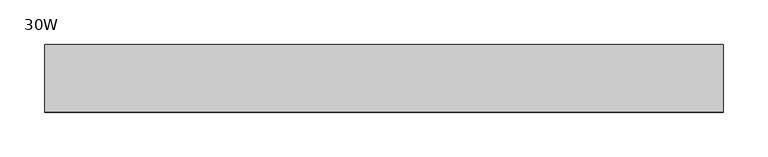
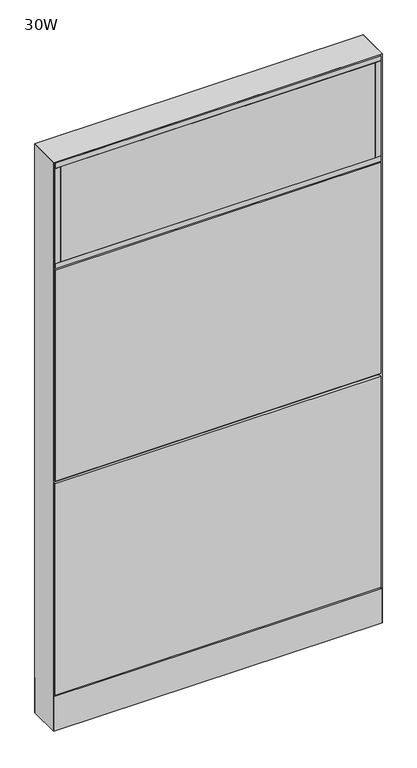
"""IFC4 building model written with IfcOpenShell, lengths in millimetres: furniture geometry, Steelcase - Montage - Frame - 55H - Enhanced Monolithic - Base Cavity : 30W."""

from ifc_helpers import new_model, si_unit, point, frame, frame_2d, origin, origin_with_axes, place, context, project, spatial, polyline, circle_curve, trimmed, segment, composite_curve, outline, extrude, faceted_brep, source, transform, mapped, element, save


def furniture_30w_0af04b80(model_context):
    return source(origin(), model_context, "Body", "SolidModel", [
        extrude(outline(polyline([(15.875, 38.1000015), (746.125, 38.1000015), (746.125, 31.7500017), (15.875, 31.7500017), (15.875, 38.1000015)])), frame((0.0, 0.0, 1149.35), z_axis=(0.0, 0.0, 1.0), x_axis=(1.0, 0.0, 0.0)), (0.0, 0.0, 1.0), 233.3625),
        extrude(outline(polyline([(15.875, -31.7499985), (746.125, -31.7499985), (746.125, -38.1000015), (15.875, -38.1000015), (15.875, -31.7499985)])), frame((0.0, 0.0, 1149.35), z_axis=(0.0, 0.0, 1.0), x_axis=(1.0, 0.0, 0.0)), (0.0, 0.0, 1.0), 233.3625),
        extrude(outline(polyline([(3.175, -38.1000015), (3.175, 38.1000015), (15.875, 38.1000015), (15.875, -38.1000015), (3.175, -38.1000015)])), frame((0.0, 0.0, 1149.35), z_axis=(0.0, 0.0, 1.0), x_axis=(1.0, 0.0, 0.0)), (0.0, 0.0, 1.0), 233.3625),
        extrude(outline(polyline([(746.125, -38.1000015), (746.125, 38.1000015), (758.825, 38.1000015), (758.825, -38.1000015), (746.125, -38.1000015)])), frame((0.0, 0.0, 1149.35), z_axis=(0.0, 0.0, 1.0), x_axis=(1.0, 0.0, 0.0)), (0.0, 0.0, 1.0), 233.3625),
        extrude(outline(polyline([(3.175, -38.1000015), (3.175, 38.1000015), (758.825, 38.1000015), (758.825, -38.1000015), (3.175, -38.1000015)])), frame((0.0, 0.0, 1136.65), z_axis=(0.0, 0.0, 1.0), x_axis=(1.0, 0.0, 0.0)), (0.0, 0.0, 1.0), 12.7),
        extrude(outline(polyline([(3.175, -38.1000015), (3.175, 38.1000015), (758.825, 38.1000015), (758.825, -38.1000015), (3.175, -38.1000015)])), frame((0.0, 0.0, 1382.7125), z_axis=(0.0, 0.0, 1.0), x_axis=(1.0, 0.0, 0.0)), (0.0, 0.0, 1.0), 12.7),
        extrude(outline(polyline([(758.825, 31.7500194), (3.175, 31.7500194), (3.175, 38.1000194), (758.825, 38.1000194), (758.825, 31.7500194)])), frame((0.0, 0.0, 615.95), z_axis=(0.0, 0.0, 1.0), x_axis=(1.0, 0.0, 0.0)), (0.0, 0.0, 1.0), 517.525),
        extrude(outline(polyline([(758.825, 31.7500194), (3.175, 31.7500194), (3.175, 38.1000194), (758.825, 38.1000194), (758.825, 31.7500194)])), frame((0.0, 0.0, 92.075), z_axis=(0.0, 0.0, 1.0), x_axis=(1.0, 0.0, 0.0)), (0.0, 0.0, 1.0), 517.525),
        extrude(outline(polyline([(746.125, -31.7499985), (746.125, -38.1000015), (15.875, -38.1000015), (15.875, -31.7499985), (746.125, -31.7499985)])), frame((0.0, 0.0, 1149.35), z_axis=(0.0, 0.0, 1.0), x_axis=(1.0, 0.0, 0.0)), (0.0, 0.0, 1.0), 233.3625),
        extrude(outline(polyline([(746.125, 38.1000015), (746.125, 31.7500017), (15.875, 31.7500017), (15.875, 38.1000015), (746.125, 38.1000015)])), frame((0.0, 0.0, 1149.35), z_axis=(0.0, 0.0, 1.0), x_axis=(1.0, 0.0, 0.0)), (0.0, 0.0, 1.0), 233.3625),
        extrude(outline(polyline([(758.825, -38.1000015), (746.125, -38.1000015), (746.125, 38.1000015), (758.825, 38.1000015), (758.825, -38.1000015)])), frame((0.0, 0.0, 1149.35), z_axis=(0.0, 0.0, 1.0), x_axis=(1.0, 0.0, 0.0)), (0.0, 0.0, 1.0), 233.3625),
        extrude(outline(polyline([(15.875, -38.1000015), (3.175, -38.1000015), (3.175, 38.1000015), (15.875, 38.1000015), (15.875, -38.1000015)])), frame((0.0, 0.0, 1149.35), z_axis=(0.0, 0.0, 1.0), x_axis=(1.0, 0.0, 0.0)), (0.0, 0.0, 1.0), 233.3625),
        extrude(outline(polyline([(758.825, -38.1000015), (3.175, -38.1000015), (3.175, 38.1000015), (758.825, 38.1000015), (758.825, -38.1000015)])), frame((0.0, 0.0, 1136.65), z_axis=(0.0, 0.0, 1.0), x_axis=(1.0, 0.0, 0.0)), (0.0, 0.0, 1.0), 12.7),
        extrude(outline(polyline([(758.825, -38.1000015), (3.175, -38.1000015), (3.175, 38.1000015), (758.825, 38.1000015), (758.825, -38.1000015)])), frame((0.0, 0.0, 1382.7125), z_axis=(0.0, 0.0, 1.0), x_axis=(1.0, 0.0, 0.0)), (0.0, 0.0, 1.0), 12.7),
        extrude(outline(polyline([(3.175, 31.7500194), (3.175, 38.1000194), (758.825, 38.1000194), (758.825, 31.7500194), (3.175, 31.7500194)])), frame((0.0, 0.0, 615.95), z_axis=(0.0, 0.0, 1.0), x_axis=(1.0, 0.0, 0.0)), (0.0, 0.0, 1.0), 517.525),
        extrude(outline(polyline([(3.175, 31.7500194), (3.175, 38.1000194), (758.825, 38.1000194), (758.825, 31.7500194), (3.175, 31.7500194)])), frame((0.0, 0.0, 92.075), z_axis=(0.0, 0.0, 1.0), x_axis=(1.0, 0.0, 0.0)), (0.0, 0.0, 1.0), 517.525),
        extrude(outline(polyline([(746.125, -38.1000015), (15.875, -38.1000015), (15.875, -31.7500017), (746.125, -31.7500017), (746.125, -38.1000015)])), frame((0.0, 0.0, 1149.35), z_axis=(0.0, 0.0, 1.0), x_axis=(1.0, 0.0, 0.0)), (0.0, 0.0, 1.0), 233.3625),
        extrude(outline(polyline([(746.125, 31.7499985), (15.875, 31.7499985), (15.875, 38.1000015), (746.125, 38.1000015), (746.125, 31.7499985)])), frame((0.0, 0.0, 1149.35), z_axis=(0.0, 0.0, 1.0), x_axis=(1.0, 0.0, 0.0)), (0.0, 0.0, 1.0), 233.3625),
        extrude(outline(polyline([(758.825, 38.1000015), (758.825, -38.1000015), (746.125, -38.1000015), (746.125, 38.1000015), (758.825, 38.1000015)])), frame((0.0, 0.0, 1149.35), z_axis=(0.0, 0.0, 1.0), x_axis=(1.0, 0.0, 0.0)), (0.0, 0.0, 1.0), 233.3625),
        extrude(outline(polyline([(15.875, 38.1000015), (15.875, -38.1000015), (3.175, -38.1000015), (3.175, 38.1000015), (15.875, 38.1000015)])), frame((0.0, 0.0, 1149.35), z_axis=(0.0, 0.0, 1.0), x_axis=(1.0, 0.0, 0.0)), (0.0, 0.0, 1.0), 233.3625),
        extrude(outline(polyline([(758.825, 38.1000015), (758.825, -38.1000015), (3.175, -38.1000015), (3.175, 38.1000015), (758.825, 38.1000015)])), frame((0.0, 0.0, 1136.65), z_axis=(0.0, 0.0, 1.0), x_axis=(1.0, 0.0, 0.0)), (0.0, 0.0, 1.0), 12.7),
        extrude(outline(polyline([(758.825, 38.1000015), (758.825, -38.1000015), (3.175, -38.1000015), (3.175, 38.1000015), (758.825, 38.1000015)])), frame((0.0, 0.0, 1382.7125), z_axis=(0.0, 0.0, 1.0), x_axis=(1.0, 0.0, 0.0)), (0.0, 0.0, 1.0), 12.7),
        extrude(outline(polyline([(3.175, -31.7500194), (758.825, -31.7500194), (758.825, -38.1000194), (3.175, -38.1000194), (3.175, -31.7500194)])), frame((0.0, 0.0, 615.95), z_axis=(0.0, 0.0, 1.0), x_axis=(1.0, 0.0, 0.0)), (0.0, 0.0, 1.0), 517.525),
        extrude(outline(polyline([(3.175, -31.7500194), (758.825, -31.7500194), (758.825, -38.1000194), (3.175, -38.1000194), (3.175, -31.7500194)])), frame((0.0, 0.0, 92.075), z_axis=(0.0, 0.0, 1.0), x_axis=(1.0, 0.0, 0.0)), (0.0, 0.0, 1.0), 517.525),
        extrude(outline(polyline([(6.350003, -31.7499985), (755.649997, -31.7499985), (762.0, -38.1000015), (0.0, -38.1000015), (6.350003, -31.7499985)])), frame((0.0, 0.0, 4.064), z_axis=(0.0, 0.0, 1.0), x_axis=(1.0, 0.0, 0.0)), (0.0, 0.0, 1.0), 84.835997),
        extrude(outline(polyline([(6.3500002, 31.7500017), (0.0, 38.1000015), (762.0, 38.1000015), (755.6500002, 31.7500017), (6.3500002, 31.7500017)])), frame((0.0, 0.0, 4.064), z_axis=(0.0, 0.0, 1.0), x_axis=(1.0, 0.0, 0.0)), (0.0, 0.0, 1.0), 84.835997),
        faceted_brep([(762.0, -38.1000015, 1398.5875), (0.0, -38.1000015, 1398.5875), (6.3500484, -31.749953, 1392.2374516), (755.6499516, -31.749953, 1392.2374516), (6.3500484, 31.749953, 1392.2374516), (755.6499516, 31.749953, 1392.2374516), (0.0, 38.1000015, 1398.5875), (762.0, 38.1000015, 1398.5875)], [[[0, 1, 2, 3]], [[3, 2, 4, 5]], [[6, 7, 5, 4]], [[1, 0, 7, 6]], [[2, 1, 6, 4]], [[0, 3, 5, 7]]]),
        extrude(outline(composite_curve([segment(trimmed(circle_curve(frame_2d((44.45, 0.0)), 15.24), [point((29.21, 0.0))], [point((59.69, 0.0))], False, "CARTESIAN"), True, "CONTINUOUS"), segment(trimmed(circle_curve(frame_2d((44.45, 0.0)), 15.24), [point((59.69, 0.0))], [point((29.21, 0.0))], False, "CARTESIAN"), True, "CONTINUOUS")], self_intersect=False)), origin_with_axes(), (0.0, 0.0, 1.0), 4.064),
        extrude(outline(composite_curve([segment(trimmed(circle_curve(frame_2d((717.55, 0.0)), 15.24), [point((702.31, 0.0))], [point((732.79, 0.0))], False, "CARTESIAN"), True, "CONTINUOUS"), segment(trimmed(circle_curve(frame_2d((717.55, 0.0)), 15.24), [point((732.79, 0.0))], [point((702.31, 0.0))], False, "CARTESIAN"), True, "CONTINUOUS")], self_intersect=False)), origin_with_axes(), (0.0, 0.0, 1.0), 4.064),
        faceted_brep([(762.0, -38.1000106, 4.064), (762.0, 38.1000015, 4.064), (762.0, 38.1000015, 1398.5875), (762.0, -38.1000106, 1398.5874637), (0.0, 38.1000015, 4.064), (0.0, -38.1000015, 4.064), (0.0, -38.1000015, 1398.5875), (0.0, 38.1000015, 1398.5875), (755.6499879, 31.7500017, 606.425), (6.35, 31.7500017, 606.425), (6.3499998, 31.7500017, 619.125), (755.6499879, 31.7500017, 619.125), (6.35, -31.7499985, 619.125), (755.6499879, -31.7499985, 619.125), (6.350003, -31.7499985, 606.425), (755.6499879, -31.7499985, 606.425), (6.35, 31.7500015, 4.064), (6.35, -31.7500015, 4.064), (755.6499879, 31.7499894, 4.064), (755.6499879, -31.7499985, 4.064), (6.35, 31.7500015, 1392.2375), (6.35, -31.7500015, 1392.2375), (755.6499879, -31.7499985, 1392.2374516), (755.6499879, 31.7499895, 1392.2374516)], [[[0, 1, 2, 3]], [[4, 5, 6, 7]], [[8, 9, 10, 11]], [[11, 10, 12, 13]], [[13, 12, 14, 15]], [[9, 8, 15, 14]], [[16, 17, 5, 4]], [[18, 1, 0, 19]], [[16, 4, 7, 20, 10, 9]], [[5, 17, 14, 12, 21, 6]], [[12, 10, 20, 21]], [[17, 16, 9, 14]], [[11, 13, 22, 23]], [[18, 19, 15, 8]], [[19, 0, 3, 22, 13, 15]], [[1, 18, 8, 11, 23, 2]], [[7, 6, 21, 20]], [[3, 2, 23, 22]]]),
    ])


if __name__ == "__main__":
    model = new_model("IFC4")
    model_context = context("Model", 3, world=origin())
    ifc_project = project(units=[si_unit("LENGTHUNIT", "METRE", prefix="MILLI")], contexts=[model_context])
    site = spatial("IfcSite", under=ifc_project)
    building = spatial("IfcBuilding", under=site)
    placement = place(None, origin())
    furniture_30w_shape = furniture_30w_0af04b80(model_context)
    element("IfcFurniture", 1, ObjectType="Steelcase - Montage - Frame - 55H - Enhanced Monolithic - Base Cavity : 30W", at=placement, inside=building, context=model_context, shape_type="MappedRepresentation", body=[
        mapped(furniture_30w_shape, transform((0.0, 0.0, 0.0), x_axis=(1.0, 0.0, 0.0), y_axis=(0.0, 1.0, 0.0), z_axis=(0.0, 0.0, 1.0))),
    ])
    save(model, "model.ifc")
